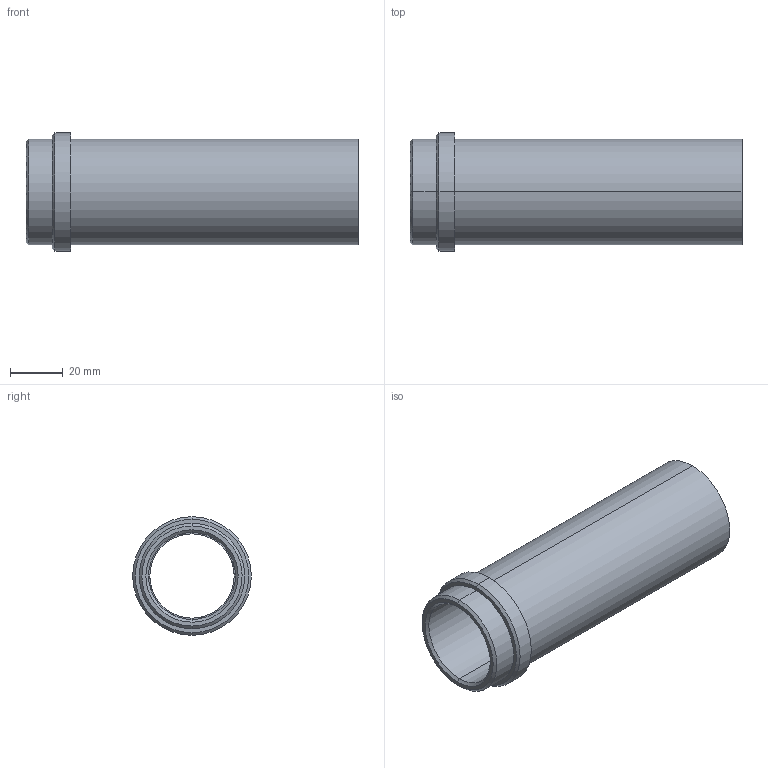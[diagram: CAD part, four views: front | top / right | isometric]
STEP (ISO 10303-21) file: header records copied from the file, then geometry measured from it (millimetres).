
FILE_DESCRIPTION(('CATIA V5 STEP Exchange'),'2;1');
FILE_NAME('C:\Users\Utente\Desktop\IO LAVORO\3D X SITO CF\X SITO\PLASTICA\358\358-32x126.stp','2021-04-09T13:11:44+00:00',('none'),('none'),'CATIA Version 5 Release 20 GA (IN-10)','CATIA V5 STEP AP203','none');
FILE_SCHEMA(('CONFIG_CONTROL_DESIGN'));
Length unit declared in the file: millimetre
Products named in the file (1): 358-32X126
Bounding box: 126 x 45 x 45 mm (x, y, z)
Volume: 55899.4 mm3; surface area: 30074.7 mm2
Topology: 1 solids, 1 shells, 23 faces, 74 edges, 56 vertices
Faces by surface type: cylinder 10, cone 6, plane 5, torus 2
Entity records: 1066 total; most frequent: CARTESIAN_POINT 378, ORIENTED_EDGE 148, DIRECTION 104, EDGE_CURVE 74, AXIS2_PLACEMENT_3D 66, VERTEX_POINT 56, CIRCLE 42, EDGE_LOOP 28
